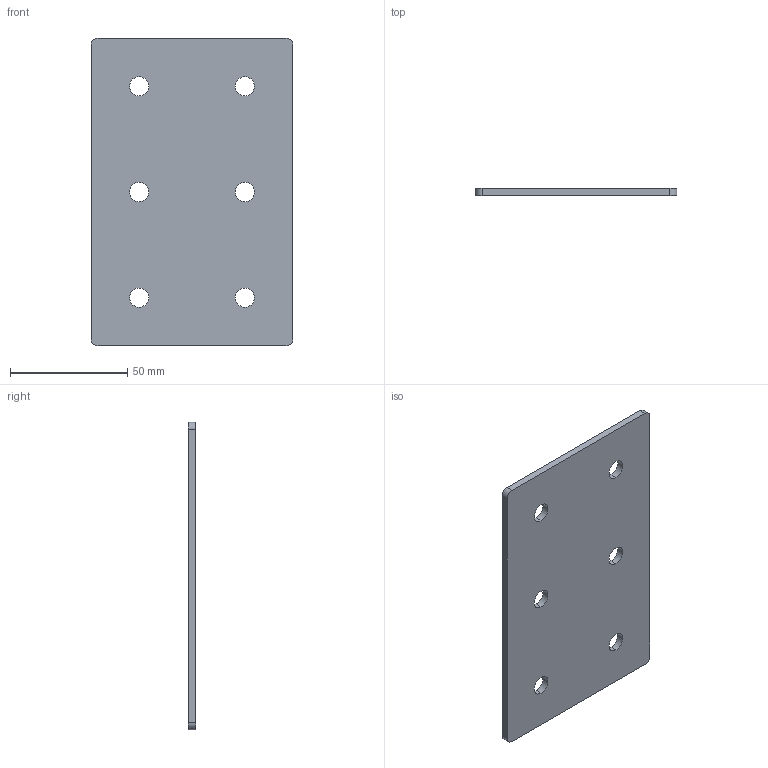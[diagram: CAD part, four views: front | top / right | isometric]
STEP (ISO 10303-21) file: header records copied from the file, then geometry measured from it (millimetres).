
FILE_DESCRIPTION (( 'STEP AP203' ), '1' );
FILE_NAME ('ﾏ-6-45.STEP', '2016-07-23T15:19:02', ( '' ), ( '' ), 'SwSTEP 2.0', 'SolidWorks 2014', '' );
FILE_SCHEMA (( 'CONFIG_CONTROL_DESIGN' ));
Length unit declared in the file: millimetre
Products named in the file (1): ﾏ-6-45
Bounding box: 86 x 3 x 131 mm (x, y, z)
Surface area: 23633.1 mm2 (no closed solid volume)
Topology: 0 solids, 1 shells, 22 faces, 60 edges, 40 vertices
Faces by surface type: cylinder 16, plane 6
Entity records: 817 total; most frequent: DIRECTION 138, CARTESIAN_POINT 123, ORIENTED_EDGE 120, EDGE_CURVE 60, AXIS2_PLACEMENT_3D 55, VERTEX_POINT 40, EDGE_LOOP 34, CIRCLE 32
